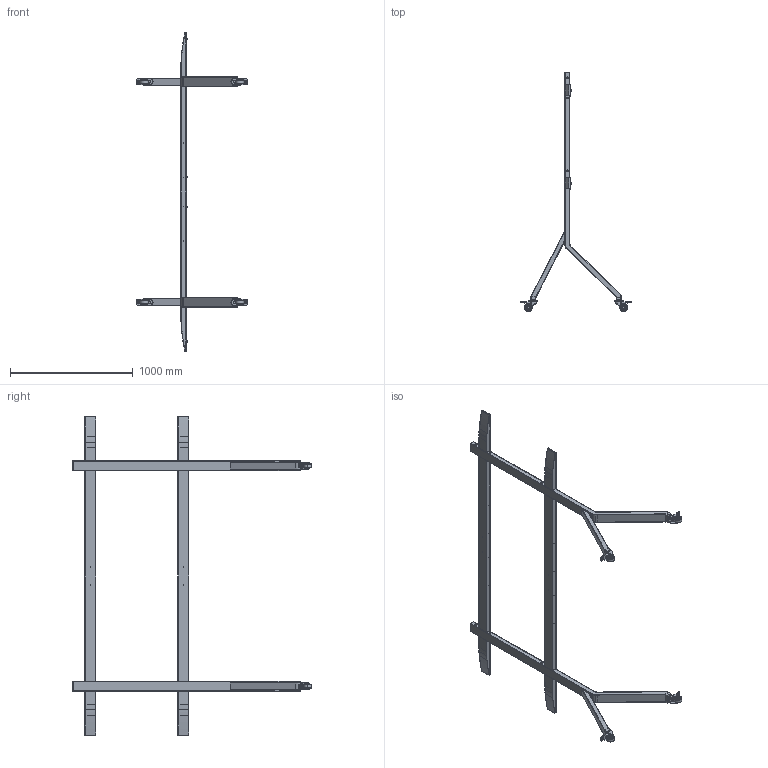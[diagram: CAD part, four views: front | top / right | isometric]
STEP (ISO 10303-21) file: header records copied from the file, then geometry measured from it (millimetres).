
FILE_DESCRIPTION (( 'STEP AP203' ), '1' );
FILE_NAME ('URL122 Stand.STEP', '2024-06-19T23:15:06', ( '' ), ( '' ), 'SwSTEP 2.0', 'SolidWorks 2024', '' );
FILE_SCHEMA (( 'CONFIG_CONTROL_DESIGN' ));
Length unit declared in the file: millimetre
Products named in the file (14): 48026037400R00-02_1_URL122; 48026037400R00-03_1_URL122; 48026037400R00_ASM_3_URL122; URL122 Stand; 25-INCH_Caster_URL136; 48026037400R00_ASM_2_URL122; 48029035750R00-05_URL136; M812_GB700_URL136; GBT97_1-2002_80001_URL109; 48026037400R00_ASM_1_URL122; 48026037400R00-01_ASM_1_ASM_URL122; 48026037400R00-04_1_URL122; 48026037400R00-01-01_1_URL122; M4X10_GB819_URL136
Assembly tree (50 placements, depth 3):
  URL122 Stand
    48026037400R00-01_ASM_1_ASM_URL122  x2
      25-INCH_Caster_URL136
      48026037400R00-01-01_1_URL122
    48026037400R00_ASM_1_URL122  x2
      48026037400R00-02_1_URL122
      48029035750R00-05_URL136
    48026037400R00_ASM_3_URL122  x2
      48026037400R00-03_1_URL122
      48029035750R00-05_URL136
    48026037400R00_ASM_2_URL122  x2
      48026037400R00-04_1_URL122
      48029035750R00-05_URL136
    M4X10_GB819_URL136  x16
    GBT97_1-2002_80001_URL109  x8
    M812_GB700_URL136  x8
Bounding box: 901.16 x 1951.06 x 2603 mm (x, y, z)
Volume: 7642359.4 mm3; surface area: 4855399.9 mm2
Topology: 56 solids, 58 shells, 3136 faces, 7876 edges, 5004 vertices
Faces by surface type: cylinder 1146, plane 1096, bspline 408, cone 254, torus 216, sphere 16
Entity records: 46000 total; most frequent: CARTESIAN_POINT 19111, ORIENTED_EDGE 5152, DIRECTION 4849, EDGE_CURVE 2576, AXIS2_PLACEMENT_3D 1818, VERTEX_POINT 1650, EDGE_LOOP 1274, LINE 1213
